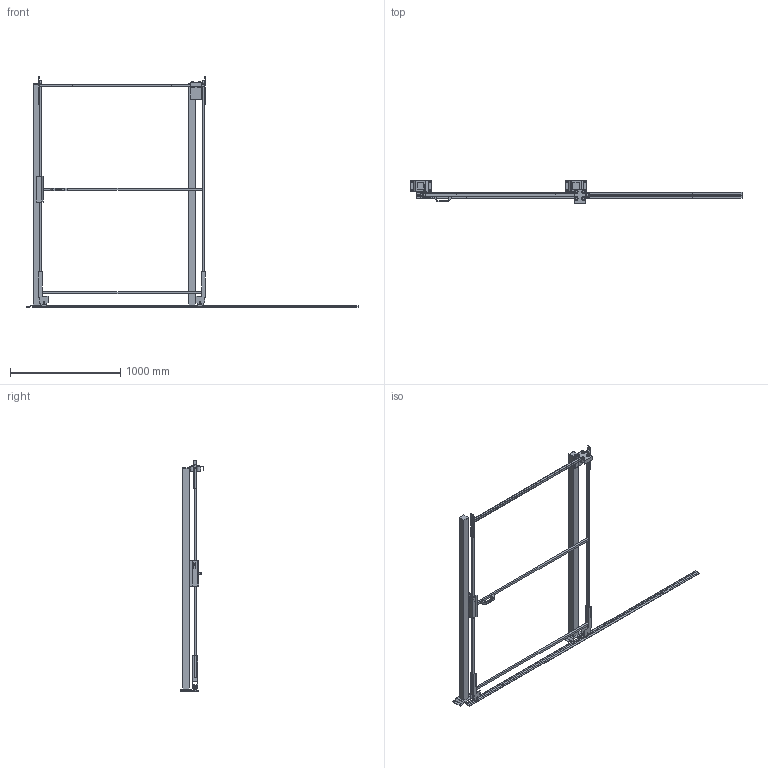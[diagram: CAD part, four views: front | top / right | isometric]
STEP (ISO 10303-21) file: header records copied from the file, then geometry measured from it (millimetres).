
FILE_DESCRIPTION(/* description */ (''),/* implementation_level */ '2;1');
FILE_NAME(/* name */ 'C:\SafeGuarding\ELABORATI\Drawing5_2025-04-02-10-18-46.stp',/* time_stamp */ '2025-04-02T10:18:50+02:00',/* author */ ('admin'),/* organization */ (''),/* preprocessor_version */ 'ST-DEVELOPER v18.1',/* originating_system */ 'AutoCAD Mechanical',/* authorisation */ '');
FILE_SCHEMA (('AUTOMOTIVE_DESIGN { 1 0 10303 214 3 1 1 }'));
Length unit declared in the file: millimetre
Products named in the file (3): Product; R_VFPA.REPE20.15001900; P_VFMA.V260SDU.2020
Assembly tree (3 placements, depth 2):
  Product
    R_VFPA.REPE20.15001900
    P_VFMA.V260SDU.2020  x2
Bounding box: 3011.45 x 210 x 2090 mm (x, y, z)
Volume: 20222082.1 mm3; surface area: 3126120.1 mm2
Topology: 35 solids, 46 shells, 357 faces, 1120 edges, 1075 vertices
Faces by surface type: plane 311, cylinder 40, cone 4, sphere 2
Full cylindrical faces by diameter (mm): 9 x4, 11 x8, 13 x4, 18 x4, 30 x2, 36 x4, 58 x4
Entity records: 11629 total; most frequent: CARTESIAN_POINT 2500, DIRECTION 1772, ORIENTED_EDGE 1622, EDGE_CURVE 860, LINE 802, VECTOR 802, VERTEX_POINT 614, AXIS2_PLACEMENT_3D 485
